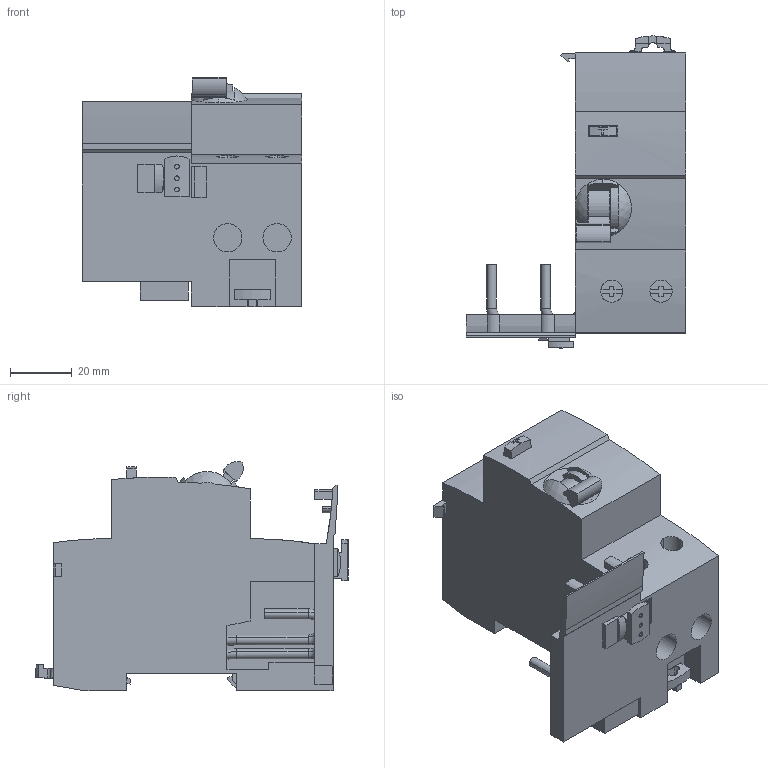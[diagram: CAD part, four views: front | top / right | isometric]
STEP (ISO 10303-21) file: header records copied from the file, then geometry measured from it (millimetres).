
FILE_DESCRIPTION((''),'2;1');
FILE_NAME('B100452','2013-06-13T',('SESA217760'),('Schneider-Electric'),'PRO/ENGINEER BY PARAMETRIC TECHNOLOGY CORPORATION, 2011410','PRO/ENGINEER BY PARAMETRIC TECHNOLOGY CORPORATION, 2011410','');
FILE_SCHEMA(('CONFIG_CONTROL_DESIGN'));
Length unit declared in the file: millimetre
Products named in the file (1): B100452
Bounding box: 71.2 x 101.29 x 74.32 mm (x, y, z)
Volume: 175600.7 mm3; surface area: 36536.1 mm2
Topology: 1 solids, 1 shells, 406 faces, 1173 edges, 786 vertices
Faces by surface type: plane 309, cylinder 87, torus 8, sphere 2
Entity records: 13634 total; most frequent: CARTESIAN_POINT 2822, ORIENTED_EDGE 2342, DIRECTION 2121, EDGE_CURVE 1171, VECTOR 881, LINE 881, VERTEX_POINT 786, AXIS2_PLACEMENT_3D 620
